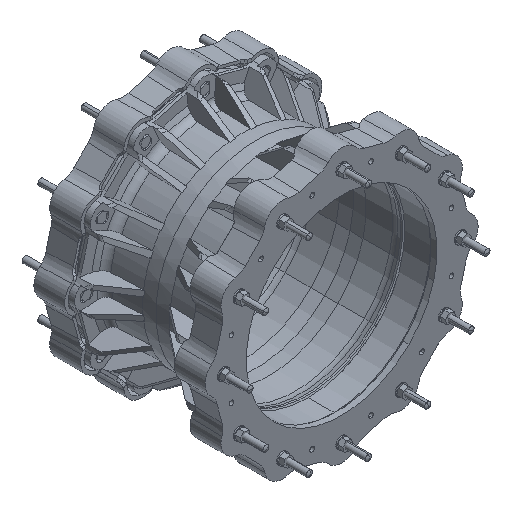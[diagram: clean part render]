
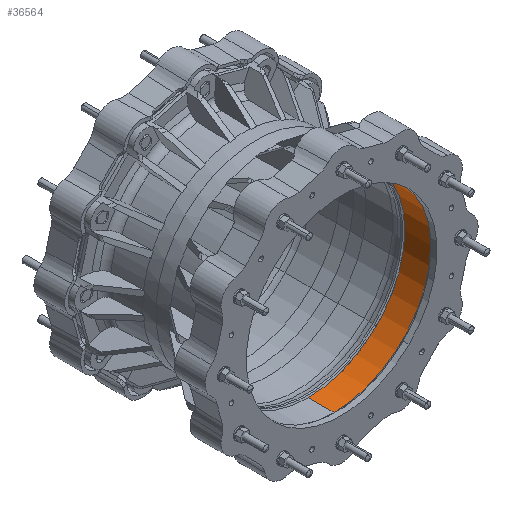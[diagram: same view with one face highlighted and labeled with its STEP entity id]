
A CAD part, isometric view. The second image highlights one B-rep face of the part: STEP entity #36564.
In plain terms, the highlighted cylindrical face has radius 251 mm (diameter 502 mm), a partial arc.
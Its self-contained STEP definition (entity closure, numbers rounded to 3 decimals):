
#36388=CARTESIAN_POINT('',(0.,-33.5,0.));
#36389=DIRECTION('',(0.,-1.,0.));
#36390=DIRECTION('',(0.,0.,-1.));
#36391=AXIS2_PLACEMENT_3D('',#36388,#36389,#36390);
#36398=DIRECTION('',(0.,-1.,0.));
#36399=VECTOR('',#36398,67.);
#36400=CARTESIAN_POINT('',(0.,33.5,-251.));
#36401=LINE('',#36400,#36399);
#36402=CARTESIAN_POINT('',(0.,33.5,0.));
#36403=DIRECTION('',(0.,-1.,0.));
#36404=DIRECTION('',(0.,0.,-1.));
#36405=AXIS2_PLACEMENT_3D('',#36402,#36403,#36404);
#36407=DIRECTION('',(0.,-1.,0.));
#36408=VECTOR('',#36407,67.);
#36409=CARTESIAN_POINT('',(0.,33.5,251.));
#36410=LINE('',#36409,#36408);
#36445=CARTESIAN_POINT('',(0.,33.5,-251.));
#36446=CARTESIAN_POINT('',(0.,-33.5,-251.));
#36447=VERTEX_POINT('',#36445);
#36448=VERTEX_POINT('',#36446);
#36455=CARTESIAN_POINT('',(0.,33.5,251.));
#36456=CARTESIAN_POINT('',(0.,-33.5,251.));
#36457=VERTEX_POINT('',#36455);
#36458=VERTEX_POINT('',#36456);
#36552=CARTESIAN_POINT('',(0.,-36.85,0.));
#36553=DIRECTION('',(0.,1.,0.));
#36554=DIRECTION('',(0.,0.,-1.));
#36555=AXIS2_PLACEMENT_3D('',#36552,#36553,#36554);
#36556=CYLINDRICAL_SURFACE('',#36555,251.);
#36557=ORIENTED_EDGE('',*,*,#36542,.F.);
#36559=ORIENTED_EDGE('',*,*,#36558,.T.);
#36560=ORIENTED_EDGE('',*,*,#36545,.T.);
#36561=ORIENTED_EDGE('',*,*,#36532,.F.);
#36562=EDGE_LOOP('',(#36557,#36559,#36560,#36561));
#36563=FACE_OUTER_BOUND('',#36562,.F.);
#36564=ADVANCED_FACE('',(#36563),#36556,.F.);
#36392=CIRCLE('',#36391,251.);
#36406=CIRCLE('',#36405,251.);
#36532=EDGE_CURVE('',#36448,#36458,#36392,.T.);
#36542=EDGE_CURVE('',#36447,#36448,#36401,.T.);
#36545=EDGE_CURVE('',#36457,#36458,#36410,.T.);
#36558=EDGE_CURVE('',#36447,#36457,#36406,.T.);
